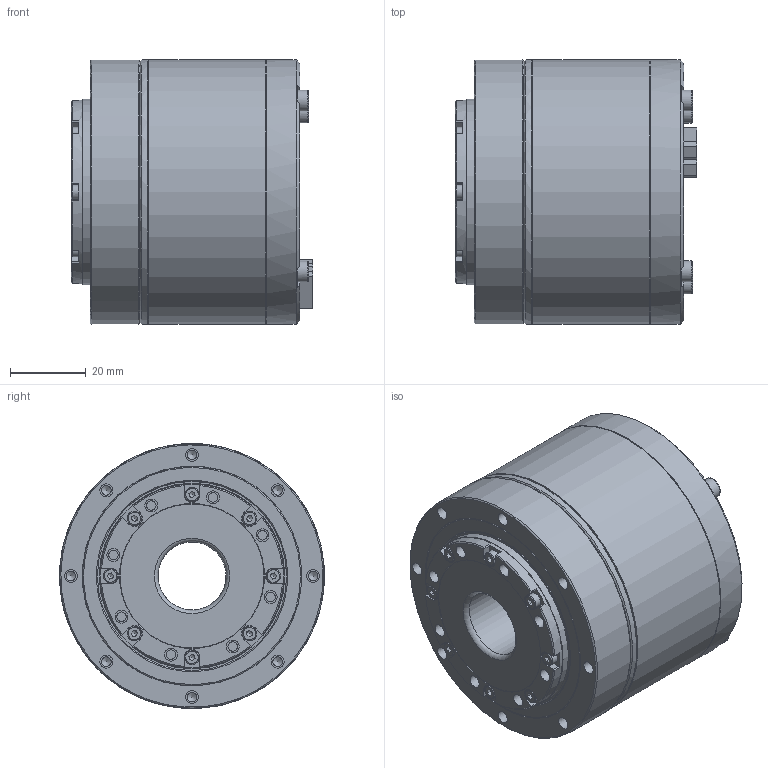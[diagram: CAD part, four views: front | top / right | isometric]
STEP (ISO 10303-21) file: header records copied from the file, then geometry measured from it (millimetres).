
FILE_DESCRIPTION (( 'STEP AP203' ), '1' );
FILE_NAME ('eRob70F｡ﾁ｡ﾁI-F-XX-18CX_V3_MC2A.BX.XX.STEP', '2025-04-03T02:54:31', ( 'Windows User' ), ( 'P R C' ), 'SwSTEP 2.0', 'SolidWorks 2021', '' );
FILE_SCHEMA (( 'CONFIG_CONTROL_DESIGN' ));
Length unit declared in the file: millimetre
Products named in the file (1): eRob70F××I-F-XX-18CX_V3_MC2A.BX.XX
Bounding box: 63.8 x 70 x 70 mm (x, y, z)
Volume: 202338.5 mm3; surface area: 31046.4 mm2
Topology: 1 solids, 1 shells, 2068 faces, 5546 edges, 3642 vertices
Faces by surface type: plane 1587, bspline 254, cylinder 142, cone 67, torus 18
Full cylindrical faces by diameter (mm): 1.2 x3, 1.5 x6, 1.55 x3, 2.1 x2, 2.4 x4, 2.5 x16, 3.4 x16, 3.8 x8, 5.5 x4, 18 x1, 48.6 x1, 49 x1, 50 x1, 58 x1, 70 x4
Entity records: 77633 total; most frequent: CARTESIAN_POINT 28262, ORIENTED_EDGE 10664, DIRECTION 8873, EDGE_CURVE 5332, LINE 4313, VECTOR 4313, VERTEX_POINT 3551, EDGE_LOOP 2407
